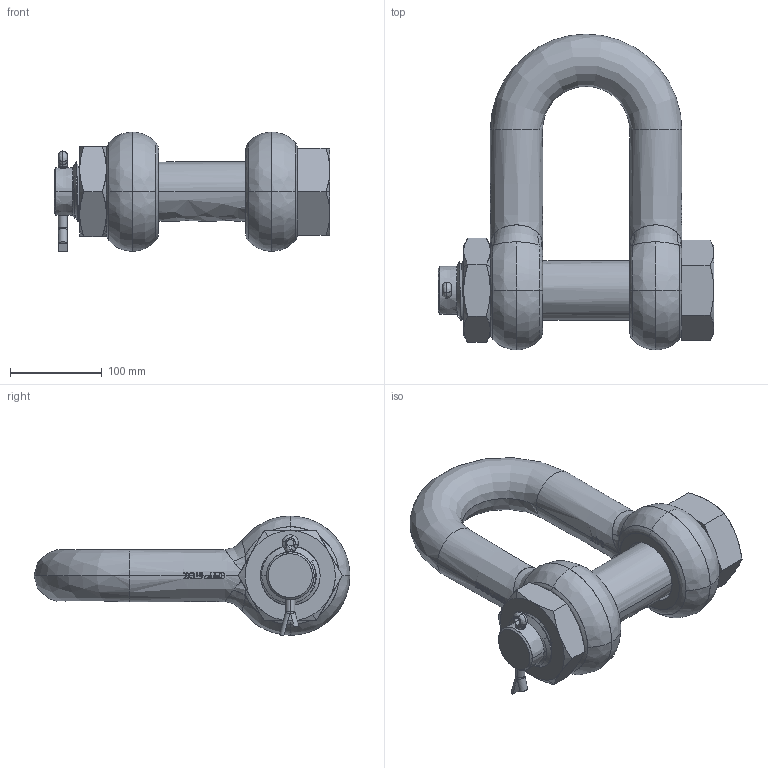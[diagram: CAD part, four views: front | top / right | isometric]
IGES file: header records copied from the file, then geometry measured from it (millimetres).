
Start section: START RECORD GO HERE.
Global section: file name: 42,5.igs; native system: Solidworks 2009      A Version 5 Release 17 ; preprocessor: Solidworks                 ; author: v.b.; organization: P4; date: 20090807.084007; units: millimetre
Bounding box: 301 x 344.5 x 130.74 mm (x, y, z)
Surface area: 293988.1 mm2 (no closed solid volume)
Topology: 0 solids, 0 shells, 807 faces, 5660 edges, 5652 vertices
Faces by surface type: plane 323, bspline 313, revolution 171
